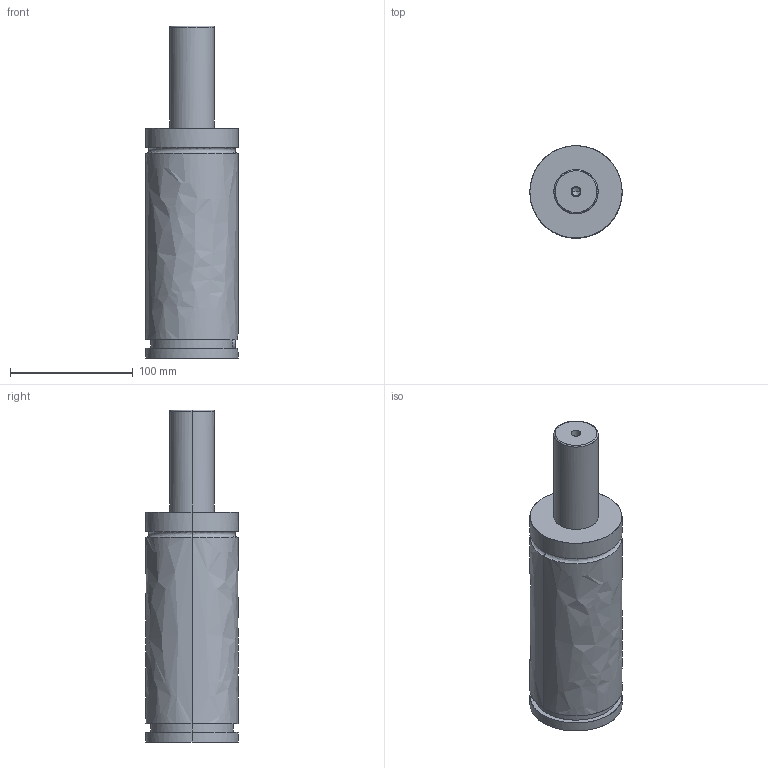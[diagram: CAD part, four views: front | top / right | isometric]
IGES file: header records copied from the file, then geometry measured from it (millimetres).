
Global section: file name: E:\UnigraphicsGraphicData\MISUMI_PRESS-PARTS\IGES\3d_gse75-80_03857_r00.igs; native system: NX V5.0; preprocessor: UGS NX IGES V5.0; author: MISUMI; date: 20110105.160802; units: millimetre
Bounding box: 75 x 75 x 270 mm (x, y, z)
Surface area: 66908.7 mm2 (no closed solid volume)
Topology: 0 solids, 0 shells, 75 faces, 606 edges, 604 vertices
Faces by surface type: bspline 75
